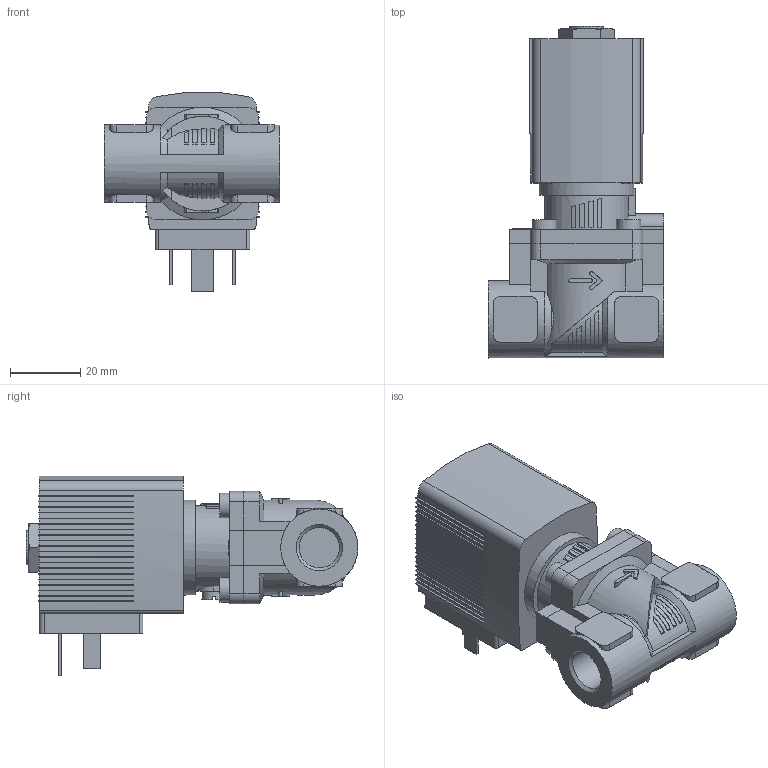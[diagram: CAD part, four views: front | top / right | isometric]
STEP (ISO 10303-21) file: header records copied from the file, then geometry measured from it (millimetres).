
FILE_DESCRIPTION(/* description */ ('STEP AP214'),/* implementation_level */ '2;1');
FILE_NAME(/* name */ '6281-319439-2_2-Way_Solenoid_Valve__Servo-assisted__General_Purpose',/* time_stamp */ '2024-06-21T15:41:52+02:00',/* author */ ('License CC BY-ND 4.0'),/* organization */ ('CADENAS'),/* preprocessor_version */ 'ST-DEVELOPER v19.3',/* originating_system */ 'PARTsolutions',/* authorisation */ ' ');
FILE_SCHEMA (('AUTOMOTIVE_DESIGN {1 0 10303 214 3 1 1}'));
Length unit declared in the file: millimetre
Products named in the file (4): 6281-319439-2/2-Way Solenoid Valve, Servo-assisted, General Purpose; 5281ev102VA2/2-Wege-Magnetventil mit Servomembran-Deckel  HA15 ; 6213-10G1/4VA-Gehaeuse-; AC10ex-5OO-Plan-Coil
Assembly tree (3 placements, depth 2):
  6281-319439-2/2-Way Solenoid Valve, Servo-assisted, General Purpose
    5281ev102VA2/2-Wege-Magnetventil mit Servomembran-Deckel  HA15 
    6213-10G1/4VA-Gehaeuse-
    AC10ex-5OO-Plan-Coil
Bounding box: 50 x 94.5 x 56.84 mm (x, y, z)
Volume: 94091 mm3; surface area: 22879.1 mm2
Topology: 3 solids, 3 shells, 537 faces, 1476 edges, 978 vertices
Faces by surface type: plane 435, cylinder 87, cone 15
Full cylindrical faces by diameter (mm): 2.013 x1, 7 x5, 9.74 x1, 11.445 x2, 22 x1, 27 x1
Entity records: 19607 total; most frequent: CARTESIAN_POINT 3208, ORIENTED_EDGE 2898, DIRECTION 2782, EDGE_CURVE 1449, LINE 1062, VECTOR 1062, VERTEX_POINT 968, AXIS2_PLACEMENT_3D 860
